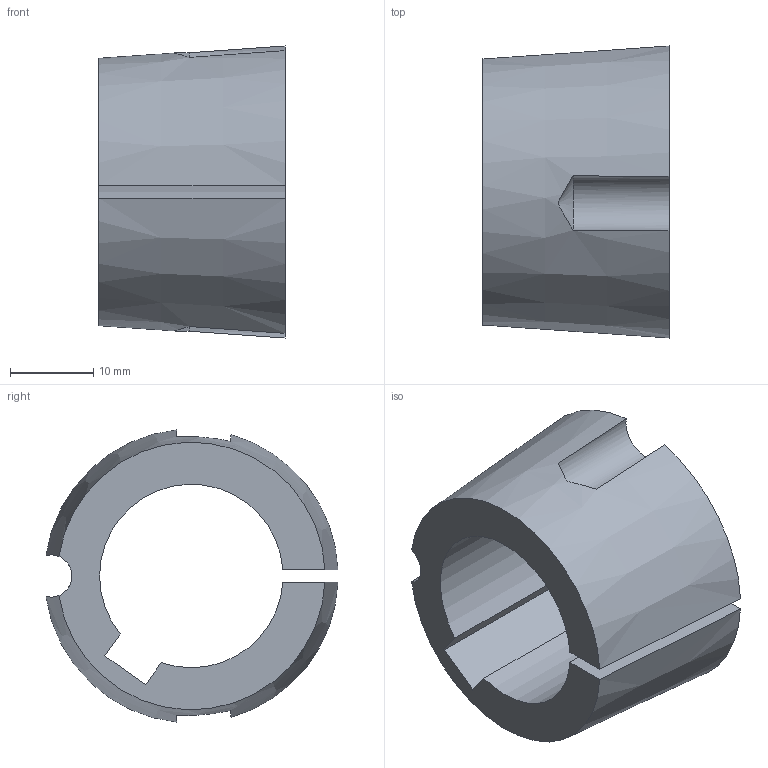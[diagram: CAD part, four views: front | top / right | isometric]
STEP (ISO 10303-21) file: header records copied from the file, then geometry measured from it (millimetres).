
FILE_DESCRIPTION( ( 'STEP AP203' ), '1' );
FILE_NAME( 'D:/export/antriebselemente/spannbuchsen_und_spannsaetze/taper-spannbuchsen_1008_bis_5050/taper-spannbuchsen_62250122Isometric_13.stp', '2018-12-11T11:10:57', ( '' ), ( '' ), ' ', 'PARTsolutions', ' ' );
FILE_SCHEMA( ( 'CONFIG_CONTROL_DESIGN' ) );
Length unit declared in the file: millimetre
Products named in the file (1): _taper-spannbuchsen_62250122
Bounding box: 22.3 x 35.01 x 35.02 mm (x, y, z)
Volume: 10117.4 mm3; surface area: 5307.9 mm2
Topology: 1 solids, 1 shells, 16 faces, 42 edges, 28 vertices
Faces by surface type: plane 7, cylinder 5, cone 4
Entity records: 602 total; most frequent: CARTESIAN_POINT 163, ORIENTED_EDGE 84, DIRECTION 82, EDGE_CURVE 42, AXIS2_PLACEMENT_3D 33, VERTEX_POINT 28, ADVANCED_FACE 16, FACE_OUTER_BOUND 16
